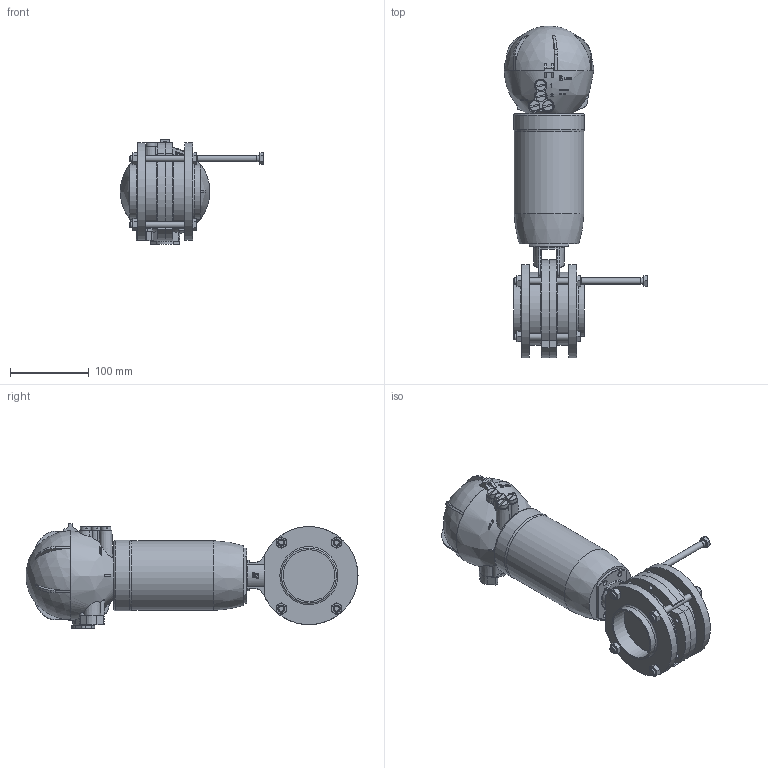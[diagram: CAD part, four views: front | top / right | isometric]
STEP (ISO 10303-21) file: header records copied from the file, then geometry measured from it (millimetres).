
FILE_DESCRIPTION(/* description */ ('ZVF V.FARF.DN65(70X2) WAF4 MACH83 SE NC 316 EPDM'),/* implementation_level */ '2;1');
FILE_NAME(/* name */ 'C:\_DED_PWS\BORZ-A\DB\B\EAA\BEAAC6065BEBA-00^SAGOMA.step',/* time_stamp */ '2026-03-09T10:14:49+01:00',/* author */ (''),/* organization */ (''),/* preprocessor_version */ 'ST-DEVELOPER v20',/* originating_system */ 'Autodesk Inventor 2022',/* authorisation */ '');
FILE_SCHEMA (('CONFIG_CONTROL_DESIGN'));
Length unit declared in the file: millimetre
Products named in the file (10): BEAAC6065BEBA; 3DAAJGIOAA007; MACH83; TOAAA025410; TWD030065BBA; FLANGIA-DN65-WAFER-4; RBIAA.M08; RBAAA08X80; RBIAA.M08_1; RBAAA08X80_1
Assembly tree (16 placements, depth 2):
  BEAAC6065BEBA
    3DAAJGIOAA007
    MACH83
    TOAAA025410
    FLANGIA-DN65-WAFER-4  x2
    TWD030065BBA  x2
    RBAAA08X80_1  x3
    RBIAA.M08  x2
    RBAAA08X80  x2
    RBIAA.M08_1  x2
Bounding box: 182.6 x 422.96 x 133 mm (x, y, z)
Volume: 2507383.9 mm3; surface area: 262137 mm2
Topology: 16 solids, 16 shells, 1145 faces, 2960 edges, 1914 vertices
Faces by surface type: plane 759, cylinder 151, cone 125, bspline 59, torus 50, sphere 1
Full cylindrical faces by diameter (mm): 4 x1, 6.2 x16, 7 x4, 8 x14, 8.2 x4, 8.5 x8, 13 x9, 18 x1, 26 x1, 66 x2, 70 x2, 89 x1, 90 x1, 93 x2
Entity records: 36674 total; most frequent: CARTESIAN_POINT 10437, DIRECTION 5522, ORIENTED_EDGE 5214, EDGE_CURVE 2607, AXIS2_PLACEMENT_3D 2311, VERTEX_POINT 1702, EDGE_LOOP 1091, FACE_OUTER_BOUND 983
